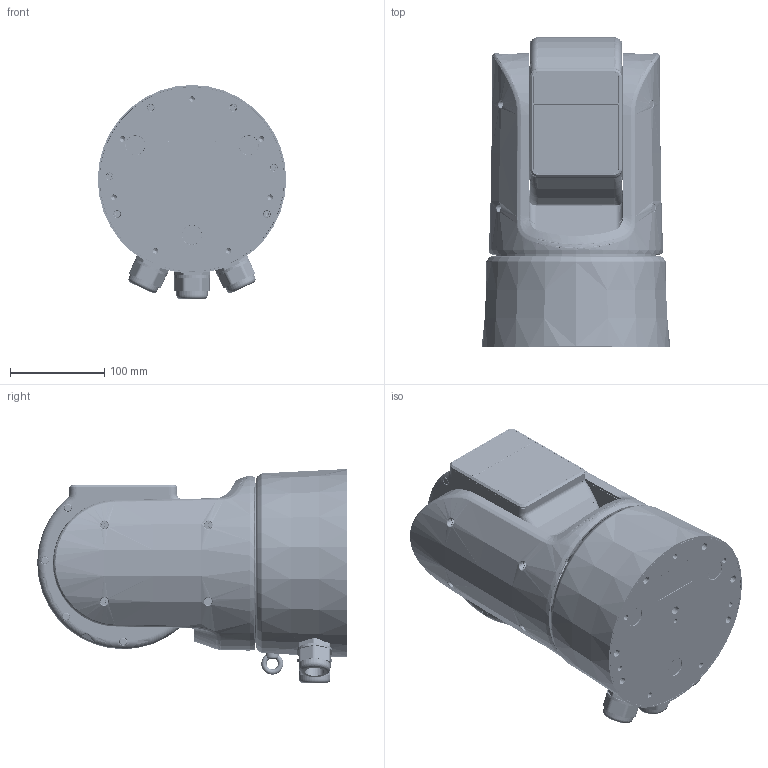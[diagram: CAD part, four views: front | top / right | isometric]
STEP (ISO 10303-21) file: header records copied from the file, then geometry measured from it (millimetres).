
FILE_DESCRIPTION(('FreeCAD Model'),'2;1');
FILE_NAME('Open CASCADE Shape Model','2025-09-15T14:22:34',('Author'),( ''),'Open CASCADE STEP processor 7.8','FreeCAD','Unknown');
FILE_SCHEMA(('AP242_MANAGED_MODEL_BASED_3D_ENGINEERING_MIM_LF. {1 0 10303 442 1 1 4 }'));
Length unit declared in the file: millimetre
Products named in the file (26): 0-BDG-OUTDOOR_1_ASM; 0004_ASM; 0005; SOLID; 0007; 0012003; 0006; 50001_ASM; 5_10001_ASM; M60001; M25-MG25AL0003; Y04010401066_BDG_O0001; Y04010401068_BDG_O0001; Y04020403009_BDG_O0003; Y04020403009_BDG_O0004; OUTDOOR-_0-BDG-OUT0001_ASM; OUTDOOR-_0-BDG-OUT0002_ASM; __OUTDOOR-_0-BDG-O0001; O40004; O40009; O40010; O4_OUTDOOR-_0-BDG-0001; BDG-0002; _OUTDOOR-_0-BDG-OU0001; O40013; O4-0014
Assembly tree (46 placements, depth 4):
  0-BDG-OUTDOOR_1_ASM
    0004_ASM
      0005
        SOLID
      0007
      0012003  x4
      0006
    50001_ASM
      5_10001_ASM
        M60001
        M25-MG25AL0003  x3
      Y04010401066_BDG_O0001
      Y04010401068_BDG_O0001
      Y04020403009_BDG_O0003  x3
      Y04020403009_BDG_O0004
    OUTDOOR-_0-BDG-OUT0001_ASM
      OUTDOOR-_0-BDG-OUT0002_ASM
        __OUTDOOR-_0-BDG-O0001
        O40004
        O40009
        O40010
        O4_OUTDOOR-_0-BDG-0001
        BDG-0002  x2
        _OUTDOOR-_0-BDG-OU0001
        O40013
        O4-0014  x14
Bounding box: 199.65 x 327.83 x 226.68 mm (x, y, z)
Volume: 1759868.8 mm3; surface area: 1021949.8 mm2
Topology: 40 solids, 40 shells, 6274 faces, 15286 edges, 9309 vertices
Faces by surface type: cylinder 1612, bspline 1488, plane 1242, cone 982, torus 739, sphere 203, extrusion 6, revolution 2
Entity records: 292470 total; most frequent: CARTESIAN_POINT 136025, ORIENTED_EDGE 27426, DIRECTION 24638, EDGE_CURVE 13713, AXIS2_PLACEMENT_3D 10300, VERTEX_POINT 8352, CIRCLE 6100, FACE_BOUND 6011
